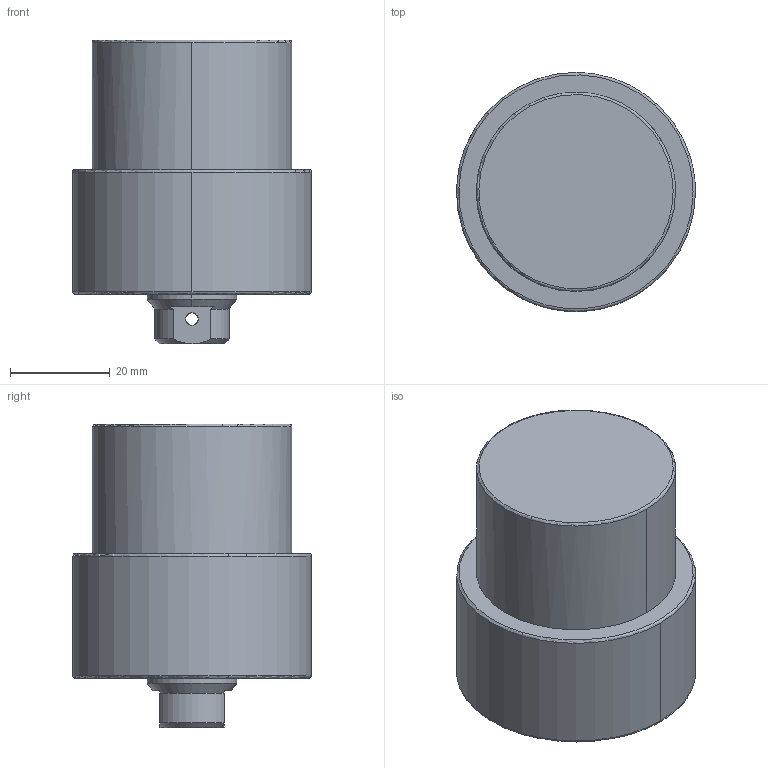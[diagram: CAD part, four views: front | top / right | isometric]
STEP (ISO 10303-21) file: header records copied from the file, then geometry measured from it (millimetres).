
FILE_DESCRIPTION((' '),'2;1');
FILE_NAME( 'TLLU-040GB-015.STEP.stp', '2025-10-24T16:37:11', (' '), ('--- Datakit www.datakit.com---'), ' Datakit CrossCadWare V2024.1 Dec 21 2023', 'Mastercam 2025', ' ');
FILE_SCHEMA(('AUTOMOTIVE_DESIGN { 1 0 10303 214 1 1 1 1 }'));
Length unit declared in the file: millimetre
Products named in the file (1): TLLU-040GB-015
Bounding box: 47.99 x 48 x 61 mm (x, y, z)
Volume: 77893.7 mm3; surface area: 12280.1 mm2
Topology: 1 solids, 1 shells, 66 faces, 200 edges, 133 vertices
Faces by surface type: cylinder 26, cone 24, plane 10, torus 6
Entity records: 3000 total; most frequent: CARTESIAN_POINT 1126, DIRECTION 428, ORIENTED_EDGE 380, EDGE_CURVE 190, AXIS2_PLACEMENT_3D 187, VERTEX_POINT 133, CIRCLE 120, EDGE_LOOP 77
